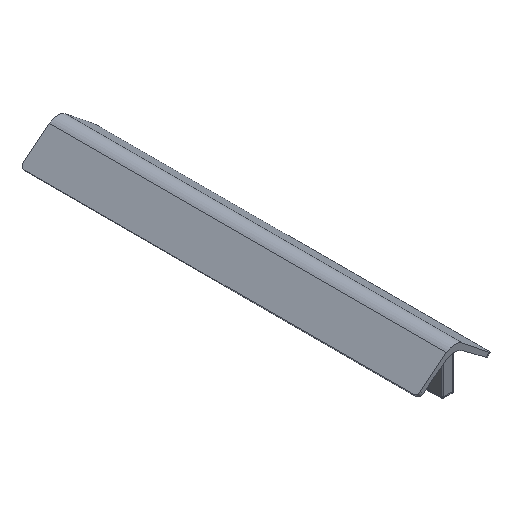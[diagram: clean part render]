
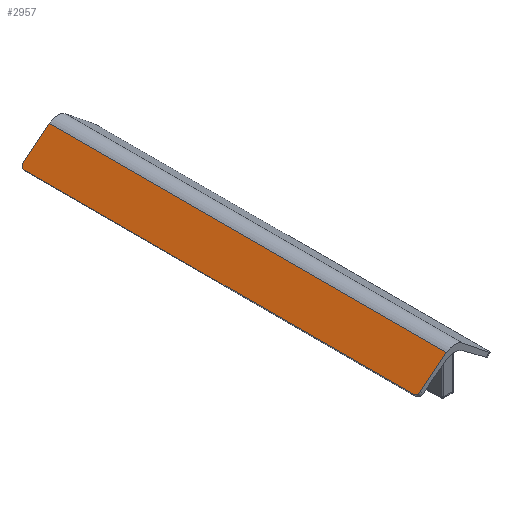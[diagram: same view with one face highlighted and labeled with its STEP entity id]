
A CAD part, isometric view. The second image highlights one B-rep face of the part: STEP entity #2957.
In plain terms, the highlighted planar face has unit normal (-0.623, 0, 0.782).
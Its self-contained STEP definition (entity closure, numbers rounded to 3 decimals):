
#206=FACE_OUTER_BOUND('',#359,.T.);
#359=EDGE_LOOP('',(#2378,#2379,#2380,#2381,#2382,#2383));
#489=CIRCLE('',#3216,15.);
#492=CIRCLE('',#3227,15.);
#716=LINE('',#4880,#997);
#728=LINE('',#4917,#1009);
#731=LINE('',#4923,#1012);
#732=LINE('',#4924,#1013);
#997=VECTOR('',#3893,10.);
#1009=VECTOR('',#3929,10.);
#1012=VECTOR('',#3938,10.);
#1013=VECTOR('',#3939,10.);
#1287=VERTEX_POINT('',#4866);
#1288=VERTEX_POINT('',#4868);
#1291=VERTEX_POINT('',#4879);
#1301=VERTEX_POINT('',#4906);
#1303=VERTEX_POINT('',#4914);
#1304=VERTEX_POINT('',#4916);
#1656=EDGE_CURVE('',#1287,#1288,#489,.T.);
#1662=EDGE_CURVE('',#1291,#1288,#716,.T.);
#1675=EDGE_CURVE('',#1291,#1301,#492,.T.);
#1680=EDGE_CURVE('',#1303,#1304,#728,.T.);
#1684=EDGE_CURVE('',#1304,#1287,#731,.T.);
#1685=EDGE_CURVE('',#1303,#1301,#732,.T.);
#2378=ORIENTED_EDGE('',*,*,#1656,.F.);
#2379=ORIENTED_EDGE('',*,*,#1684,.F.);
#2380=ORIENTED_EDGE('',*,*,#1680,.F.);
#2381=ORIENTED_EDGE('',*,*,#1685,.T.);
#2382=ORIENTED_EDGE('',*,*,#1675,.F.);
#2383=ORIENTED_EDGE('',*,*,#1662,.T.);
#2673=PLANE('',#3234);
#2957=ADVANCED_FACE('',(#206),#2673,.T.);
#3216=AXIS2_PLACEMENT_3D('',#4869,#3881,#3882);
#3227=AXIS2_PLACEMENT_3D('',#4907,#3917,#3918);
#3234=AXIS2_PLACEMENT_3D('',#4922,#3936,#3937);
#3881=DIRECTION('center_axis',(0.623,0.,-0.782));
#3882=DIRECTION('ref_axis',(-0.553,-0.707,-0.441));
#3893=DIRECTION('',(0.,-1.,0.));
#3917=DIRECTION('center_axis',(0.623,0.,-0.782));
#3918=DIRECTION('ref_axis',(-0.553,0.707,-0.441));
#3929=DIRECTION('',(0.,-1.,0.));
#3936=DIRECTION('center_axis',(-0.623,0.,
0.782));
#3937=DIRECTION('ref_axis',(-0.782,0.,-0.623));
#3938=DIRECTION('',(-0.782,0.,-0.623));
#3939=DIRECTION('',(-0.782,0.,-0.623));
#4866=CARTESIAN_POINT('',(-129.94,-1500.,256.079));
#4868=CARTESIAN_POINT('',(-141.669,-1485.,246.73));
#4869=CARTESIAN_POINT('Origin',(-129.94,-1485.,256.079));
#4879=CARTESIAN_POINT('',(-141.669,-15.,246.73));
#4880=CARTESIAN_POINT('',(-141.669,0.,246.73));
#4906=CARTESIAN_POINT('',(-129.94,0.,256.079));
#4907=CARTESIAN_POINT('Origin',(-129.94,-15.,256.079));
#4914=CARTESIAN_POINT('',(-31.165,0.,334.81));
#4916=CARTESIAN_POINT('',(-31.165,-1500.,334.81));
#4917=CARTESIAN_POINT('',(-31.165,0.,334.81));
#4922=CARTESIAN_POINT('Origin',(-31.165,0.,
334.81));
#4923=CARTESIAN_POINT('',(-31.165,-1500.,334.81));
#4924=CARTESIAN_POINT('',(-31.165,0.,334.81));
